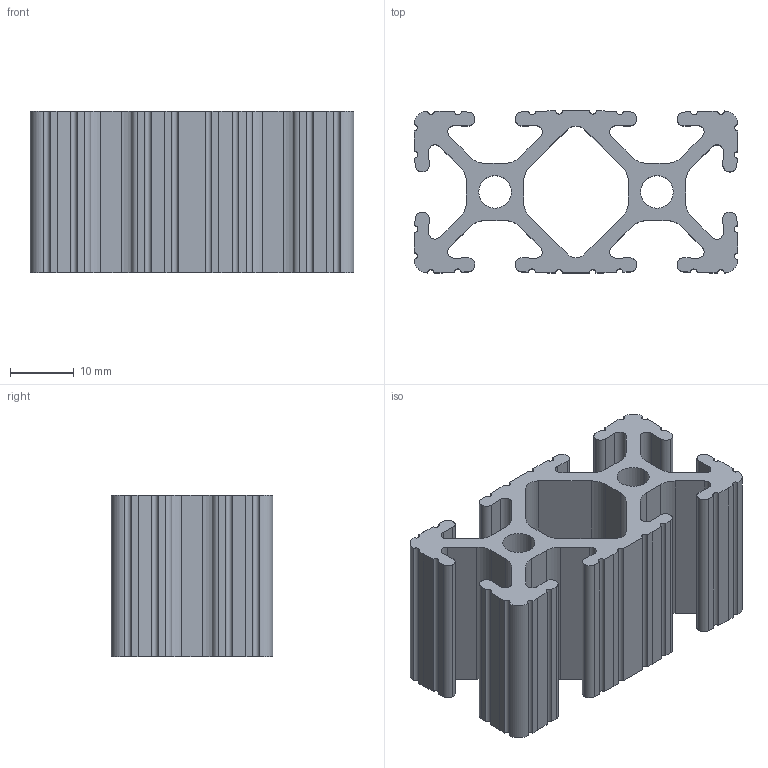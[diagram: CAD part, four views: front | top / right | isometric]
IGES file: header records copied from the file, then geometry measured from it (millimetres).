
Global section: file name: C:\Documents and Settings\Administrator\Desktop\Transfer Temp\8020-1020.igs; native system: AutoDesk Inventor R2.0 ; preprocessor: AutoDesk Inventor Iges Exporter R2.0; author: No Author specified; organization: No Organization specified; date: 20011227.204145; units: inch
Bounding box: 50.8 x 25.4 x 25.4 mm (x, y, z)
Surface area: 11189.5 mm2 (no closed solid volume)
Topology: 0 solids, 0 shells, 165 faces, 978 edges, 978 vertices
Faces by surface type: revolution 89, bspline 76
